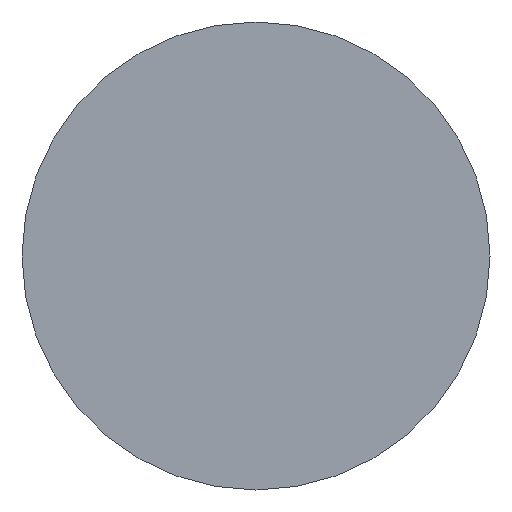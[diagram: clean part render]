
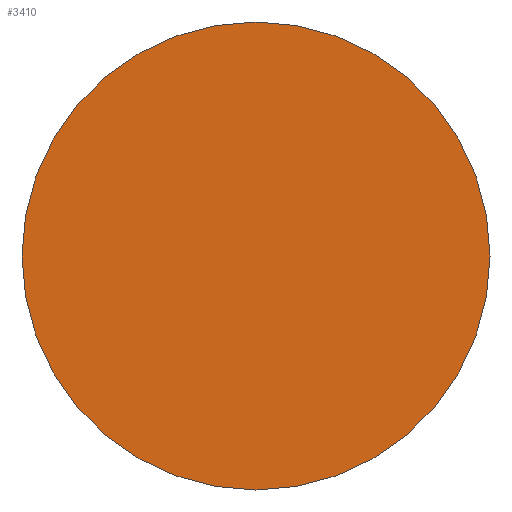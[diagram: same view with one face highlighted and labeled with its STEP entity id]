
A CAD part, front view. The second image highlights one B-rep face of the part: STEP entity #3410.
In plain terms, the highlighted planar face has unit normal (0, -1, 0).
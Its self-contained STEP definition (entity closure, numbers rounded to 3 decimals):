
#75 = EDGE_LOOP ( 'NONE', ( #1087, #790 ) ) ;
#437 = AXIS2_PLACEMENT_3D ( 'NONE', #758, #680, #701 ) ;
#576 = DIRECTION ( 'NONE',  ( 0., -1., 0. ) ) ;
#607 = DIRECTION ( 'NONE',  ( 0., -1., 0. ) ) ;
#680 = DIRECTION ( 'NONE',  ( 0., -1., 0. ) ) ;
#701 = DIRECTION ( 'NONE',  ( 1., 0., 0. ) ) ;
#758 = CARTESIAN_POINT ( 'NONE',  ( 41., -30., 0. ) ) ;
#790 = ORIENTED_EDGE ( 'NONE', *, *, #4005, .T. ) ;
#1083 = FACE_OUTER_BOUND ( 'NONE', #75, .T. ) ;
#1087 = ORIENTED_EDGE ( 'NONE', *, *, #3697, .T. ) ;
#1594 = DIRECTION ( 'NONE',  ( 1., 0., 0. ) ) ;
#1682 = CIRCLE ( 'NONE', #2643, 41. ) ;
#1713 = PLANE ( 'NONE',  #437 ) ;
#1742 = CIRCLE ( 'NONE', #2294, 41. ) ;
#2220 = CARTESIAN_POINT ( 'NONE',  ( 0., -30., 0. ) ) ;
#2260 = DIRECTION ( 'NONE',  ( 1., 0., 0. ) ) ;
#2294 = AXIS2_PLACEMENT_3D ( 'NONE', #2220, #607, #1594 ) ;
#2643 = AXIS2_PLACEMENT_3D ( 'NONE', #3521, #576, #2260 ) ;
#3410 = ADVANCED_FACE ( 'NONE', ( #1083 ), #1713, .T. ) ;
#3521 = CARTESIAN_POINT ( 'NONE',  ( 0., -30., 0. ) ) ;
#3697 = EDGE_CURVE ( 'NONE', #4235, #4106, #1742, .T. ) ;
#3958 = CARTESIAN_POINT ( 'NONE',  ( -41., -30., 0. ) ) ;
#4005 = EDGE_CURVE ( 'NONE', #4106, #4235, #1682, .T. ) ;
#4105 = CARTESIAN_POINT ( 'NONE',  ( 41., -30., 0. ) ) ;
#4106 = VERTEX_POINT ( 'NONE', #3958 ) ;
#4235 = VERTEX_POINT ( 'NONE', #4105 ) ;
